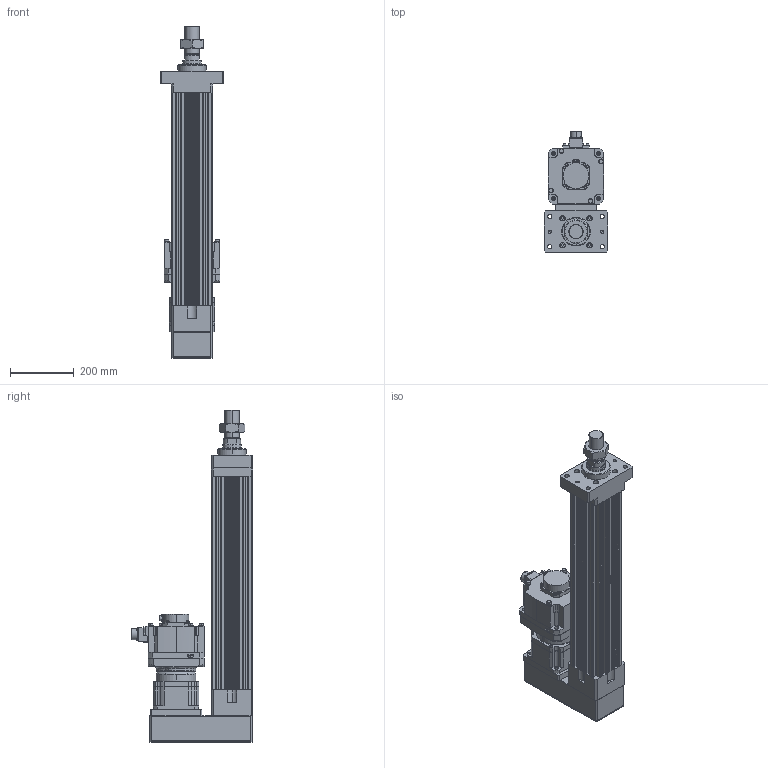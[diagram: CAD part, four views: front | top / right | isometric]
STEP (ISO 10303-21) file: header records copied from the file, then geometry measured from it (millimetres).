
FILE_DESCRIPTION (( 'STEP AP203' ), '1' );
FILE_NAME ('HES130FS(HS)-P450-W020G00-M-FMA.STEP', '2023-01-30T06:34:33', ( 'tms' ), ( '' ), 'SwSTEP 2.0', 'SolidWorks 2013', '' );
FILE_SCHEMA (( 'CONFIG_CONTROL_DESIGN' ));
Length unit declared in the file: millimetre
Products named in the file (9): P0403500801; P1301500001; AB1421; M45X1.5P; HES130 ROD M ST450; HES130-P450-G142-FMA; HG-SR202; HES130FS(HS)-P450-W020G00-M-FMA; AB142-003[HG-SR352]
Assembly tree (8 placements, depth 3):
  HES130FS(HS)-P450-W020G00-M-FMA
    HES130-P450-G142-FMA
    HES130 ROD M ST450
    M45X1.5P
    AB142-003[HG-SR352]
      AB1421
      P1301500001
      P0403500801
    HG-SR202
Bounding box: 200 x 381.85 x 1044 mm (x, y, z)
Volume: 14093654.5 mm3; surface area: 1656118.2 mm2
Topology: 4 solids, 18 shells, 1401 faces, 3660 edges, 2370 vertices
Faces by surface type: cylinder 643, plane 530, cone 146, bspline 76, torus 6
Entity records: 52014 total; most frequent: CARTESIAN_POINT 16222, DIRECTION 7460, ORIENTED_EDGE 7222, EDGE_CURVE 3633, AXIS2_PLACEMENT_3D 2825, VERTEX_POINT 2370, LINE 1810, VECTOR 1810
